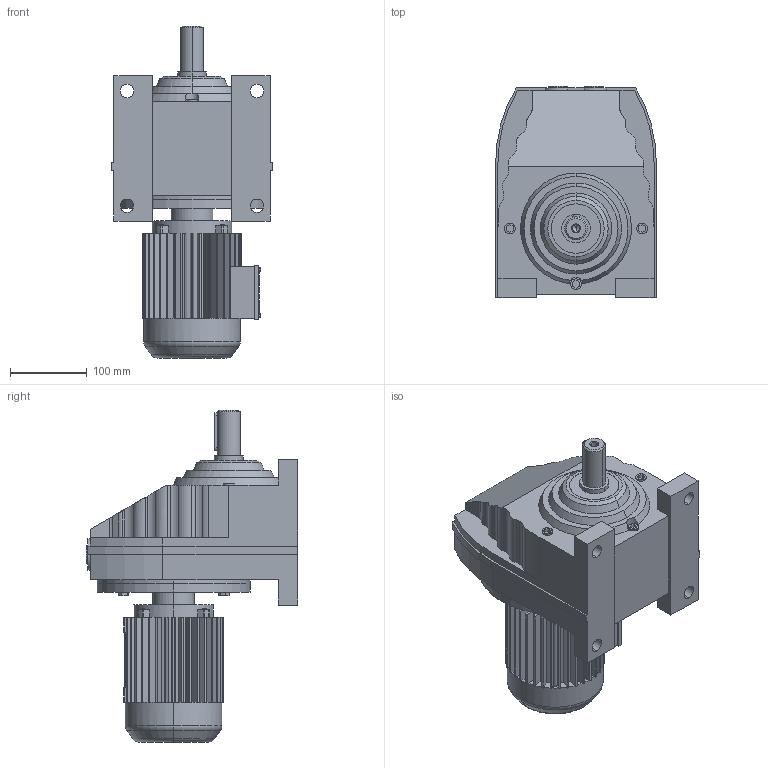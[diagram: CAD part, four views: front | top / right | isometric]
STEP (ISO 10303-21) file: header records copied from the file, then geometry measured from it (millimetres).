
FILE_DESCRIPTION(('Open CASCADE Model'),'2;1');
FILE_NAME('Open CASCADE Shape Model','2018-09-13T11:42:04',('Author'),( 'Open CASCADE'),'Open CASCADE STEP processor 6.3','Open CASCADE 6.3' ,'Unknown');
FILE_SCHEMA(('AUTOMOTIVE_DESIGN_CC2 { 1 2 10303 214 -1 1 5 4 }'));
Length unit declared in the file: millimetre
Products named in the file (3): 259_RX77-Y63S; RX57‵107_77.step; 萇儂_200_Y63S.step
Assembly tree (2 placements, depth 2):
  259_RX77-Y63S
    RX57‵107_77.step
    萇儂_200_Y63S.step
Bounding box: 210 x 276 x 434 mm (x, y, z)
Volume: 8964673.7 mm3; surface area: 513368.7 mm2
Topology: 2 solids, 2 shells, 629 faces, 1655 edges, 1068 vertices
Faces by surface type: plane 425, cylinder 184, cone 16, torus 4
Entity records: 42816 total; most frequent: CARTESIAN_POINT 11539, DIRECTION 5398, ORIENTED_EDGE 3306, PCURVE 3306, DEFINITIONAL_REPRESENTATION 3306, LINE 2848, VECTOR 2848, EDGE_CURVE 1653
